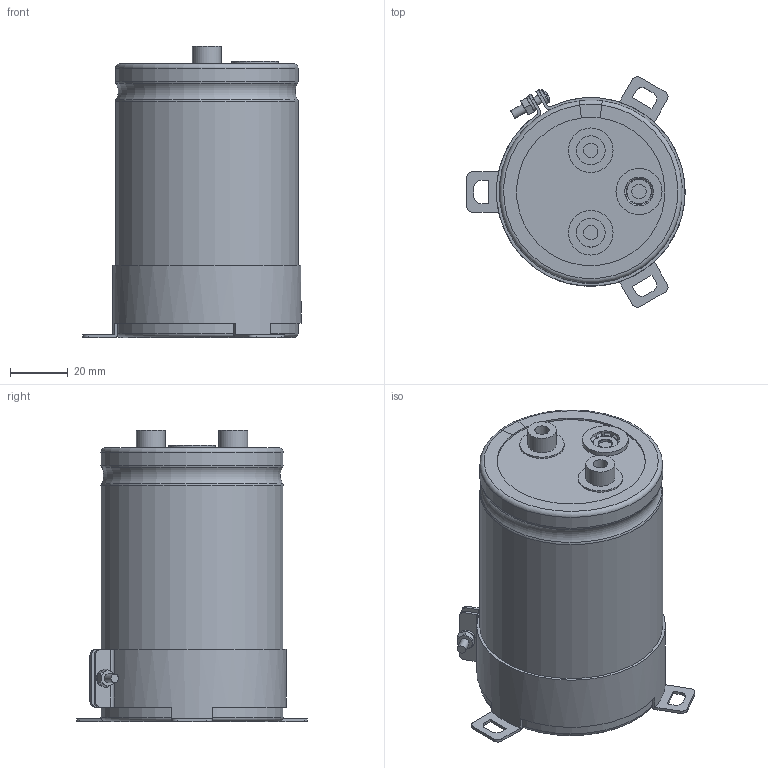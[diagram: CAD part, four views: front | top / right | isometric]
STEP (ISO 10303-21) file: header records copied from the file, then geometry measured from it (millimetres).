
FILE_DESCRIPTION(/* description */ (''),/* implementation_level */ '2;1');
FILE_NAME(/* name */ '63.5x95_Screw.stp',/* time_stamp */ '2017-09-15T19:30:37+09:00',/* author */ (''),/* organization */ (''),/* preprocessor_version */ 'ST-DEVELOPER v16',/* originating_system */ 'SIEMENS PLM Software NX 11.0',/* authorisation */ '');
FILE_SCHEMA (('AUTOMOTIVE_DESIGN { 1 0 10303 214 3 1 1 1 }'));
Length unit declared in the file: millimetre
Products named in the file (1): 63.5x95_Screw
Bounding box: 75.75 x 80.01 x 101 mm (x, y, z)
Volume: 303100.5 mm3; surface area: 77903 mm2
Topology: 9 solids, 9 shells, 259 faces, 644 edges, 415 vertices
Faces by surface type: plane 112, cylinder 66, torus 49, cone 31, sphere 1
Full cylindrical faces by diameter (mm): 3 x5, 5 x6, 5.5 x2, 10 x4, 15.5 x2, 16 x1, 62.3 x2
Entity records: 8411 total; most frequent: CARTESIAN_POINT 2059, DIRECTION 1296, ORIENTED_EDGE 1214, EDGE_CURVE 607, AXIS2_PLACEMENT_3D 541, VERTEX_POINT 408, EDGE_LOOP 317, CIRCLE 281
